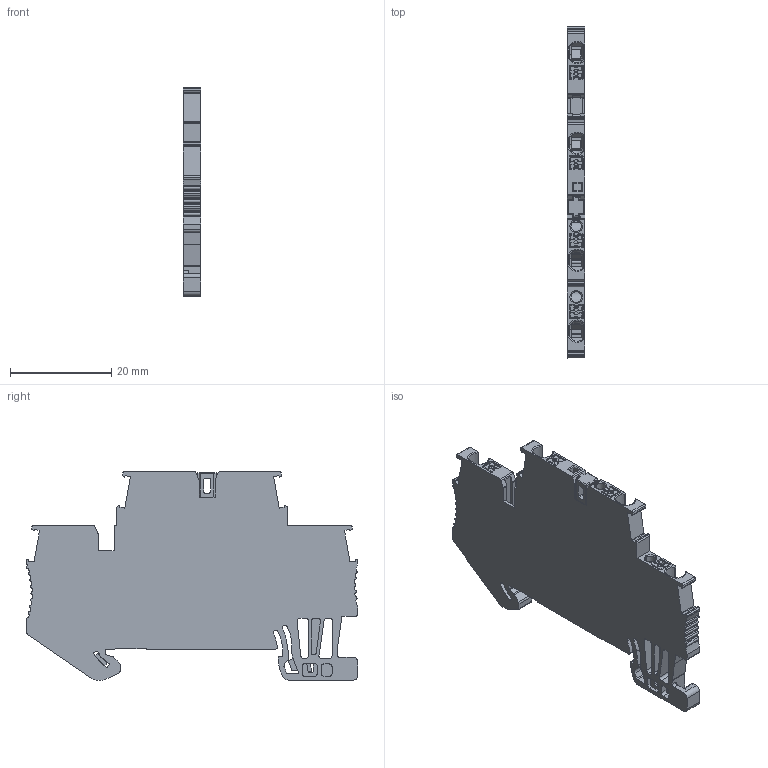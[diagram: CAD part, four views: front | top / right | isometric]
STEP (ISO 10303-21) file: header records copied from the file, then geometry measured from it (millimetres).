
FILE_DESCRIPTION((''),'2;1');
FILE_NAME('UPT-1_5-2PE_ASSY','2024-03-29T16:11:41',('Administrator'),(''),'CREO PARAMETRIC BY PTC INC, 2018050','CREO PARAMETRIC BY PTC INC, 2018050','');
FILE_SCHEMA(('CONFIG_CONTROL_DESIGN'));
Length unit declared in the file: millimetre
Products named in the file (1): UPT-1_5-2PE_ASSY
Bounding box: 3.5 x 65.4 x 41.1 mm (x, y, z)
Volume: 6137.3 mm3; surface area: 6268.4 mm2
Topology: 1 solids, 3 shells, 1490 faces, 4075 edges, 2547 vertices
Faces by surface type: plane 658, cylinder 598, sphere 69, torus 62, cone 54, extrusion 27, bspline 22
Entity records: 49695 total; most frequent: CARTESIAN_POINT 12107, ORIENTED_EDGE 8022, DIRECTION 7771, EDGE_CURVE 4011, AXIS2_PLACEMENT_3D 2662, VERTEX_POINT 2547, VECTOR 2447, LINE 2420
